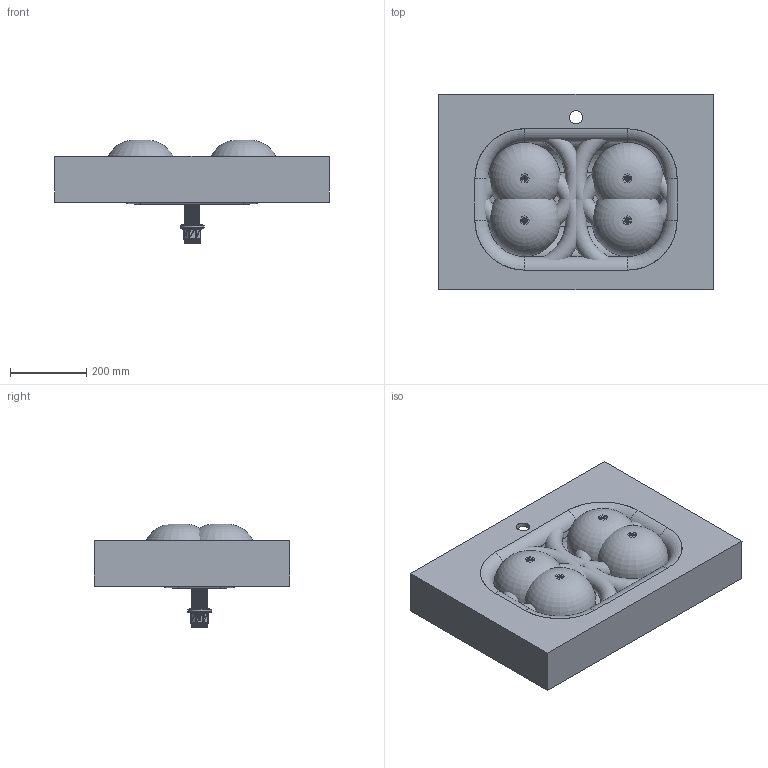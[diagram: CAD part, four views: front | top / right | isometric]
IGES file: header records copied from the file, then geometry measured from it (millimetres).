
Start section: Data from Parasolid IGES Translator 19.0.9, Copyright(c) 2006 Siemens PL M Software. All Rights Reserved.
Global section: file name: noorth-top-H 12 D 51,3 W 72_4797.igs; native system: By Siemens PLM Incorporated; preprocessor: XPlus GENERIC/IGES 19.0.9; author: Noname; organization: Noname; date: 20200603.112839; units: metre
Bounding box: 720 x 512 x 272.38 mm (x, y, z)
Volume: 20923281.5 mm3; surface area: 2374033.6 mm2
Topology: 2 solids, 2 shells, 11699 faces, 35055 edges, 34970 vertices
Faces by surface type: extrusion 11618, plane 28, cylinder 26, torus 18, cone 9
Full cylindrical faces by diameter (mm): 34.9 x1, 46 x1
